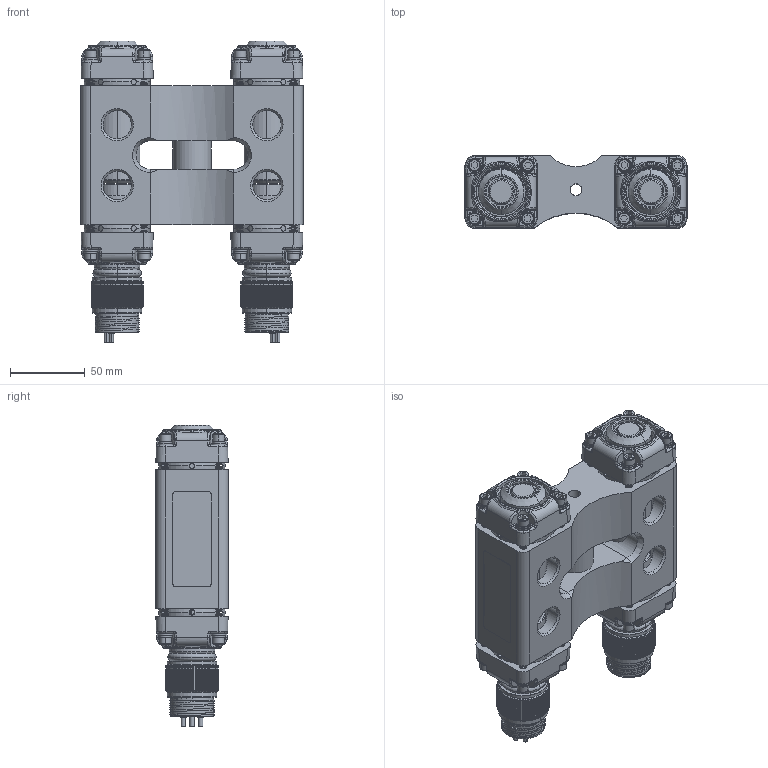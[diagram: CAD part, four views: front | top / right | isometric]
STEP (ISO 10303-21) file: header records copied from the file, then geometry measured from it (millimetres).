
FILE_DESCRIPTION (( 'STEP AP214' ), '1' );
FILE_NAME ('SeaLaser100-MCBH2-0A-B-20140709a_WithDualBracket.STEP', '2014-07-09T15:56:33', ( '' ), ( '' ), 'SwSTEP 2.0', 'SolidWorks 2014', '' );
FILE_SCHEMA (( 'AUTOMOTIVE_DESIGN' ));
Length unit declared in the file: millimetre
Products named in the file (1): SeaLaser100-MCBH2-0A-B-20140709a_WithDualBracket
Bounding box: 148.84 x 48.26 x 201.68 mm (x, y, z)
Surface area: 192672 mm2 (no closed solid volume)
Topology: 0 solids, 181 shells, 2156 faces, 7272 edges, 5153 vertices
Faces by surface type: plane 735, cylinder 642, cone 397, bspline 242, torus 128, sphere 12
Entity records: 121866 total; most frequent: CARTESIAN_POINT 39139, ORIENTED_EDGE 12214, DIRECTION 11479, EDGE_CURVE 7272, VERTEX_POINT 5153, AXIS2_PLACEMENT_3D 4579, CIRCLE 2664, EDGE_LOOP 2427
